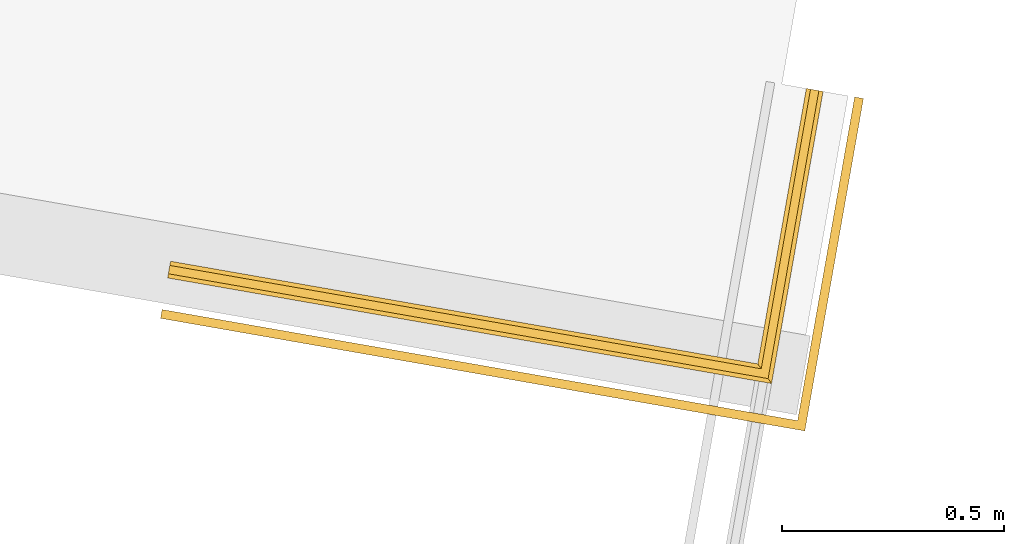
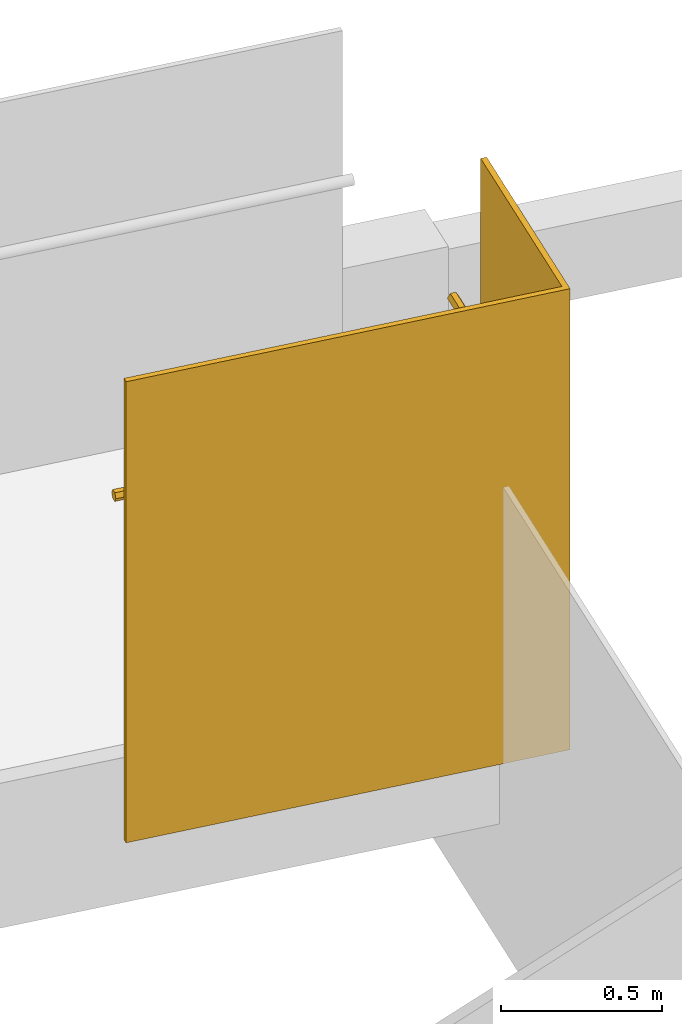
# One storey, part 8 of 10: 1 railing.
"""IFC2X3 building model written with IfcOpenShell, lengths in millimetres."""

from ifc_helpers import new_model, entity, si_unit, converted_unit, derived_unit, direction, frame, origin, place, context, subcontext, project, spatial, faceted_brep, material, material_list, element, save


model = new_model("IFC2X3")

# Units and contexts
model_context = context("Model", 3, precision=0.01, world=origin(), true_north=direction((6.12303176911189e-17, 1.0)))
body_context = subcontext(model_context, "Body", "Model", "MODEL_VIEW")
ifc_project = project(units=[si_unit("LENGTHUNIT", "METRE", prefix="MILLI"), si_unit("AREAUNIT", "SQUARE_METRE"), si_unit("VOLUMEUNIT", "CUBIC_METRE"), converted_unit("PLANEANGLEUNIT", "DEGREE", entity("IfcRatioMeasure", 0.0174532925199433), si_unit("PLANEANGLEUNIT", "RADIAN"), dimensions=[0, 0, 0, 0, 0, 0, 0]), si_unit("MASSUNIT", "GRAM", prefix="KILO"), derived_unit("MASSDENSITYUNIT", [(si_unit("MASSUNIT", "GRAM", prefix="KILO"), 1), (si_unit("LENGTHUNIT", "METRE"), -3)]), derived_unit("MOMENTOFINERTIAUNIT", [(si_unit("LENGTHUNIT", "METRE"), 4)]), si_unit("TIMEUNIT", "SECOND"), si_unit("FREQUENCYUNIT", "HERTZ"), si_unit("THERMODYNAMICTEMPERATUREUNIT", "DEGREE_CELSIUS"), derived_unit("THERMALTRANSMITTANCEUNIT", [(si_unit("MASSUNIT", "GRAM", prefix="KILO"), 1), (si_unit("THERMODYNAMICTEMPERATUREUNIT", "KELVIN"), -1), (si_unit("TIMEUNIT", "SECOND"), -3)]), derived_unit("VOLUMETRICFLOWRATEUNIT", [(si_unit("LENGTHUNIT", "METRE"), 3), (si_unit("TIMEUNIT", "SECOND"), -1)]), si_unit("ELECTRICCURRENTUNIT", "AMPERE"), si_unit("ELECTRICVOLTAGEUNIT", "VOLT"), si_unit("POWERUNIT", "WATT"), si_unit("FORCEUNIT", "NEWTON", prefix="KILO"), si_unit("ILLUMINANCEUNIT", "LUX"), si_unit("LUMINOUSFLUXUNIT", "LUMEN"), si_unit("LUMINOUSINTENSITYUNIT", "CANDELA"), derived_unit("USERDEFINED", [(si_unit("MASSUNIT", "GRAM", prefix="KILO"), -1), (si_unit("LENGTHUNIT", "METRE"), -2), (si_unit("TIMEUNIT", "SECOND"), 3), (si_unit("LUMINOUSFLUXUNIT", "LUMEN"), 1)]), derived_unit("LINEARVELOCITYUNIT", [(si_unit("LENGTHUNIT", "METRE"), 1), (si_unit("TIMEUNIT", "SECOND"), -1)]), si_unit("PRESSUREUNIT", "PASCAL"), derived_unit("USERDEFINED", [(si_unit("LENGTHUNIT", "METRE"), -2), (si_unit("MASSUNIT", "GRAM", prefix="KILO"), 1), (si_unit("TIMEUNIT", "SECOND"), -2)]), derived_unit("LINEARFORCEUNIT", [(si_unit("MASSUNIT", "GRAM", prefix="KILO"), 1), (si_unit("LENGTHUNIT", "METRE"), 1), (si_unit("TIMEUNIT", "SECOND"), -2), (si_unit("LENGTHUNIT", "METRE"), -1)]), derived_unit("PLANARFORCEUNIT", [(si_unit("MASSUNIT", "GRAM", prefix="KILO"), 1), (si_unit("LENGTHUNIT", "METRE"), 1), (si_unit("TIMEUNIT", "SECOND"), -2), (si_unit("LENGTHUNIT", "METRE"), -2)])], contexts=[model_context])

# Site, building, storey
site_placement = place(None, origin())
site = spatial("IfcSite", under=ifc_project, at=site_placement, Name="<Kadaster Gemeente>;<Kadaster nummer>;<Kadaster sectie>", CompositionType="ELEMENT")
building_placement = place(site_placement, origin())
building = spatial("IfcBuilding", under=site, at=building_placement, Name="JRCZ Middelburg", CompositionType="ELEMENT")
storey_placement = place(building_placement, frame((0.0, 0.0, 3700.0)))
storey = spatial("IfcBuildingStorey", under=building, at=storey_placement, Name="02 tweede verdieping", CompositionType="ELEMENT", Elevation=3700.0)

# Railing
ifc_material_1 = material(Name="Glass_RIPO")
ifc_material_2 = material(Name="<Unnamed>")
ifc_material_list = material_list([ifc_material_1, ifc_material_2])
railing_placement = place(storey_placement, frame((22092.6772315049, 16145.7161189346, -350.0)))
element("IfcRailing", 1, at=railing_placement, inside=storey, material=ifc_material_list, Name="Railing:RBM_RA_glasbalustrade", ObjectType="Railing:RBM_RA_glasbalustrade", PredefinedType="NOTDEFINED", context=body_context, shape_type="Brep", body=[
    faceted_brep([(0.0, 253.126298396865, 1750.0), (3.4438842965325, 272.827558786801, 1750.0), (3.4438842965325, 272.827558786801, 0.0), (0.0, 253.126298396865, 0.0), (1448.04723006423, 0.0, 1750.0), (1431.8189155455, 23.1400645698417, 1750.0), (1431.8189155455, 23.1400645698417, 0.0), (1448.04723006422, 0.0, 0.0), (1579.78193533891, 747.104639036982, 1750.0), (1579.78193533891, 747.104639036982, 0.0), (1560.08578027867, 750.577602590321, 0.0), (1560.08578027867, 750.577602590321, 1750.0)], [[[0, 1, 2, 3]], [[1, 0, 4, 5]], [[2, 1, 5, 6]], [[3, 2, 6, 7]], [[0, 3, 7, 4]], [[8, 9, 10, 11]], [[5, 4, 8, 11]], [[6, 5, 11, 10]], [[7, 6, 10, 9]], [[4, 7, 9, 8]]]),
    faceted_brep([(18.3279217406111, 357.973943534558, 1261.84778394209), (19.1479966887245, 362.665306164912, 1261.84778394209), (19.9680716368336, 367.356668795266, 1261.84778394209), (20.7881465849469, 372.048031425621, 1261.84778394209), (21.1981840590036, 374.393712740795, 1257.72333795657), (21.6082215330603, 376.739394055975, 1253.59889197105), (21.944579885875, 378.663582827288, 1250.21556252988), (22.4282964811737, 381.430756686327, 1245.35), (21.9445798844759, 378.663582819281, 1240.48443745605), (21.4608632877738, 375.896408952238, 1235.61887491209), (21.1245049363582, 373.972220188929, 1232.235545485), (20.7881465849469, 372.048031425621, 1228.85221605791), (19.9680716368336, 367.356668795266, 1228.85221605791), (19.1479966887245, 362.665306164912, 1228.85221605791), (18.3279217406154, 357.973943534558, 1228.85221605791), (17.507846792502, 353.282580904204, 1228.85221605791), (17.0978093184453, 350.936899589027, 1232.97666204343), (16.6877718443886, 348.59121827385, 1237.10110802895), (16.351413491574, 346.667029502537, 1240.48443747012), (15.8676968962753, 343.899855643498, 1245.35), (16.277734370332, 346.245536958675, 1249.47444598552), (16.6877718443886, 348.59121827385, 1253.59889197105), (17.0978093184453, 350.936899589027, 1257.72333795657), (17.507846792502, 353.282580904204, 1261.84778394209), (1373.27527091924, 106.61784750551, 1245.35), (1370.99590158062, 109.868015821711, 1250.21554965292), (1370.91939966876, 109.977100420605, 1250.37885089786), (1369.41090352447, 112.128075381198, 1253.59889197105), (1368.56352841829, 113.336353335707, 1255.40770179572), (1367.47871982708, 114.883189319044, 1257.72333795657), (1367.055032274, 115.487328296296, 1258.62774286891), (1365.5465361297, 117.638303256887, 1261.84778394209), (1350.08906655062, 139.679214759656, 1261.8477839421), (1348.15688285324, 142.434328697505, 1257.72333795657), (1346.22469915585, 145.189442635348, 1253.59889197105), (1344.29251545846, 147.944556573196, 1249.47444598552), (1342.36033176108, 150.699670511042, 1245.35), (1353.95343394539, 134.168986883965, 1261.84778394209), (1357.81780134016, 128.658759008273, 1261.84778394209), (1361.68216873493, 123.148531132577, 1261.84778394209), (1479.65160705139, 764.760317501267, 1261.84778394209), (1474.96146012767, 765.587316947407, 1261.84778394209), (1470.27131320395, 766.414316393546, 1261.84778394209), (1465.58116628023, 767.241315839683, 1261.84778394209), (1460.89101935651, 768.068315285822, 1261.84778394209), (1361.68216873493, 123.148531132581, 1228.85221605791), (1365.5465361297, 117.638303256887, 1228.85221605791), (1357.81780134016, 128.658759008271, 1228.85221605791), (1479.65160705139, 764.760317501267, 1228.85221605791), (1474.96146012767, 765.587316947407, 1228.85221605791), (1470.27131320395, 766.414316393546, 1228.85221605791), (1353.95343394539, 134.168986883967, 1228.85221605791), (1350.08906655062, 139.679214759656, 1228.85221605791), (1465.58116628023, 767.241315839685, 1228.85221605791), (1460.89101935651, 768.068315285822, 1228.85221605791), (1346.22469915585, 145.189442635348, 1237.10110802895), (1348.15688285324, 142.434328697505, 1232.97666204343), (1344.63970110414, 147.449502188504, 1240.4844503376), (1344.71620302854, 147.340417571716, 1240.32114906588), (1367.13153418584, 115.37824369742, 1232.23555837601), (1367.47871982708, 114.883189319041, 1232.97666204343), (1368.71653224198, 113.118184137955, 1235.61890069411), (1369.41090352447, 112.128075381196, 1237.10110802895), (1370.91939966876, 109.977100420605, 1240.32114910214), (1370.9959015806, 109.868015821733, 1240.48445034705), (1454.37005696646, 769.218136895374, 1250.37890776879), (1456.20087243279, 768.895314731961, 1253.59889197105), (1458.54594589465, 768.481815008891, 1257.72333795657), (1481.99668051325, 764.346817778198, 1257.72333795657), (1484.34175397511, 763.933318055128, 1253.59889197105), (1486.68682743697, 763.519818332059, 1249.47444598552), (1489.03190089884, 763.106318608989, 1245.35), (1486.68682743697, 763.519818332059, 1241.22555401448), (1484.34175397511, 763.933318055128, 1237.10110802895), (1481.99668051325, 764.346817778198, 1232.97666204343), (1459.06020390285, 768.391137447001, 1232.07220023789), (1457.22938844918, 768.713959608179, 1235.29218441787), (1454.37005697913, 769.218136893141, 1240.32109220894), (1451.51072550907, 769.7223141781, 1245.35)], [[[0, 1, 2, 3, 4, 5, 6, 7, 8, 9, 10, 11, 12, 13, 14, 15, 16, 17, 18, 19, 20, 21, 22, 23]], [[24, 25, 26, 27, 28, 29, 30, 31, 23, 22, 21, 20, 19]], [[5, 4, 3, 32, 33, 34, 35, 36, 7, 6]], [[1, 37, 2]], [[38, 37, 1]], [[1, 0, 38]], [[38, 0, 39]], [[23, 39, 0]], [[23, 31, 39]], [[31, 40, 39]], [[39, 40, 41]], [[38, 39, 41]], [[42, 38, 41]], [[42, 37, 38]], [[37, 42, 43]], [[43, 32, 37]], [[43, 44, 32]], [[32, 3, 2]], [[32, 2, 37]], [[45, 15, 14]], [[46, 15, 45]], [[47, 45, 14]], [[45, 48, 46]], [[48, 45, 49]], [[45, 47, 49]], [[50, 49, 47]], [[13, 47, 14]], [[13, 51, 47]], [[51, 13, 12]], [[12, 52, 51]], [[12, 11, 52]], [[52, 53, 51]], [[54, 53, 52]], [[51, 53, 50]], [[50, 47, 51]], [[55, 56, 52, 11, 10, 9, 8, 7, 36, 57, 58]], [[24, 19, 18, 17, 16, 15, 46, 59, 60, 61, 62, 63, 64]], [[65, 66, 67, 44, 43, 42, 41, 40, 68, 69, 70, 71, 72, 73, 74, 48, 49, 50, 53, 54, 75, 76, 77, 78]], [[70, 69, 68, 40, 31, 30, 29, 28, 27, 26, 25, 24, 71]], [[78, 36, 35, 34, 33, 32, 44, 67, 66, 65]], [[76, 75, 54, 52, 56, 55, 58, 57, 36, 78, 77]], [[74, 73, 72, 71, 24, 64, 63, 62, 61, 60, 59, 46, 48]]]),
])

save(model, "model.ifc")
